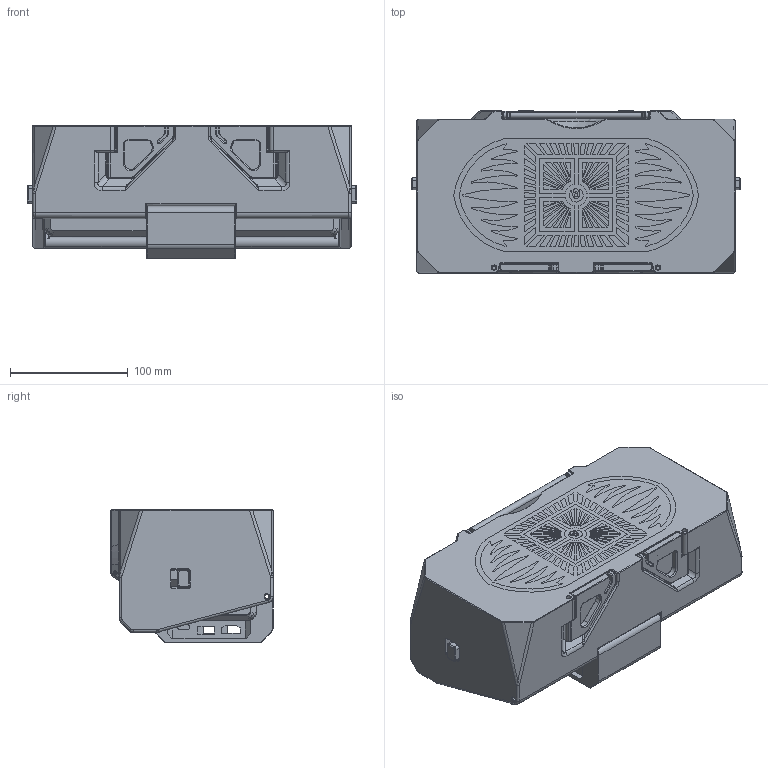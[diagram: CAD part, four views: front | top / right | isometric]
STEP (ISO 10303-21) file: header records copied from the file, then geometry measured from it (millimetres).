
FILE_DESCRIPTION(/* description */ (''),/* implementation_level */ '2;1');
FILE_NAME(/* name */ 'C:/Users/cookn/OneDrive/Documents/Case Final Assembly.step',/* time_stamp */ '2021-12-21T20:26:44-05:00',/* author */ (''),/* organization */ (''),/* preprocessor_version */ 'ST-DEVELOPER v18.1',/* originating_system */ 'Autodesk Translation Framework v10.10.0.1391',/* authorisation */ '');
FILE_SCHEMA (('AUTOMOTIVE_DESIGN { 1 0 10303 214 3 1 1 }'));
Products named in the file (1): Test2
Bounding box: 279 x 137.45 x 112.7 mm (x, y, z)
Volume: 1224252.7 mm3; surface area: 477844.2 mm2
Topology: 26 solids, 26 shells, 4039 faces, 9938 edges, 6127 vertices
Faces by surface type: plane 1940, cylinder 1257, bspline 307, cone 272, torus 242, sphere 21
Full cylindrical faces by diameter (mm): 1.75 x8, 2 x9, 2.657 x2, 2.75 x24, 3.5 x20, 3.75 x4, 4 x6, 4.5 x7
Entity records: 125541 total; most frequent: CARTESIAN_POINT 29254, DIRECTION 20325, ORIENTED_EDGE 19824, EDGE_CURVE 9912, AXIS2_PLACEMENT_3D 7042, LINE 6241, VECTOR 6241, VERTEX_POINT 6127
